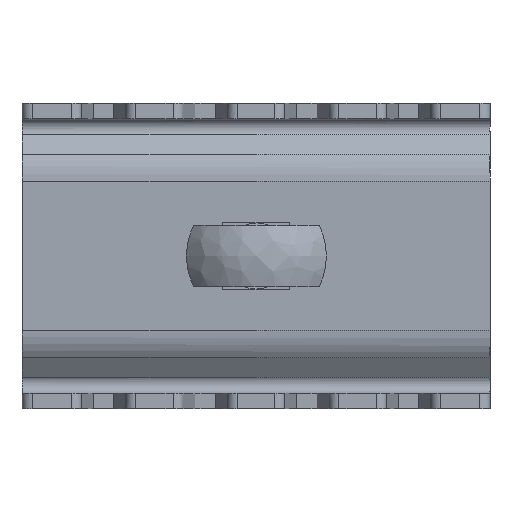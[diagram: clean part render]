
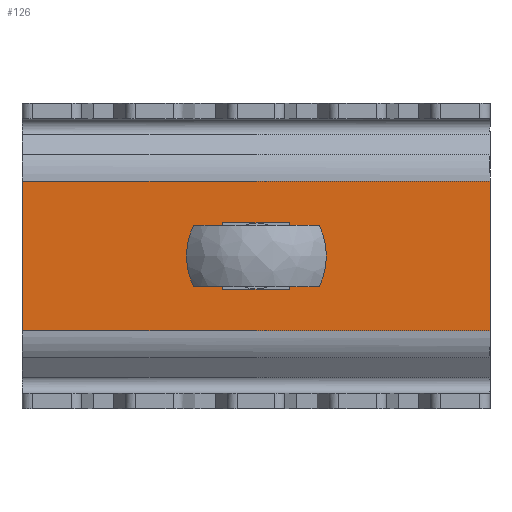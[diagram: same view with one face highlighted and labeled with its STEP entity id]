
A CAD part, left-side view. The second image highlights one B-rep face of the part: STEP entity #126.
In plain terms, the highlighted planar face has unit normal (-1, 0, 0).
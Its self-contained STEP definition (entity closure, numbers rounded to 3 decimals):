
#13=FACE_BOUND($,#376,.T.);
#126=ADVANCED_FACE($,(#250,#13),#1775,.T.);
#250=FACE_OUTER_BOUND($,#375,.T.);
#375=EDGE_LOOP($,(#725,#726,#727,#728));
#376=EDGE_LOOP($,(#729,#730,#731,#732));
#725=ORIENTED_EDGE($,*,*,#1284,.F.);
#726=ORIENTED_EDGE($,*,*,#1280,.T.);
#727=ORIENTED_EDGE($,*,*,#1285,.F.);
#728=ORIENTED_EDGE($,*,*,#1222,.T.);
#729=ORIENTED_EDGE($,*,*,#1286,.F.);
#730=ORIENTED_EDGE($,*,*,#1287,.F.);
#731=ORIENTED_EDGE($,*,*,#1288,.F.);
#732=ORIENTED_EDGE($,*,*,#1283,.F.);
#1222=EDGE_CURVE($,#1558,#1557,#1915,.T.);
#1280=EDGE_CURVE($,#1616,#1617,#1960,.T.);
#1283=EDGE_CURVE($,#1618,#1621,#1961,.T.);
#1284=EDGE_CURVE($,#1616,#1557,#1962,.T.);
#1285=EDGE_CURVE($,#1558,#1617,#1963,.T.);
#1286=EDGE_CURVE($,#1619,#1618,#1964,.T.);
#1287=EDGE_CURVE($,#1620,#1619,#1965,.T.);
#1288=EDGE_CURVE($,#1621,#1620,#1966,.T.);
#1557=VERTEX_POINT($,#3770);
#1558=VERTEX_POINT($,#3771);
#1616=VERTEX_POINT($,#3829);
#1617=VERTEX_POINT($,#3830);
#1618=VERTEX_POINT($,#3831);
#1619=VERTEX_POINT($,#3832);
#1620=VERTEX_POINT($,#3833);
#1621=VERTEX_POINT($,#3834);
#1775=PLANE($,#2270);
#1915=B_SPLINE_CURVE_WITH_KNOTS($,1,(#3016,#3017),.UNSPECIFIED.,.F.,.F.,
(2,2),(1.628,2.628),.UNSPECIFIED.);
#1960=B_SPLINE_CURVE_WITH_KNOTS($,1,(#3157,#3158),.UNSPECIFIED.,.F.,.F.,
(2,2),(0.,1.),.UNSPECIFIED.);
#1961=B_SPLINE_CURVE_WITH_KNOTS($,1,(#3165,#3166),.UNSPECIFIED.,.F.,.F.,
(2,2),(0.,1.),.UNSPECIFIED.);
#1962=B_SPLINE_CURVE_WITH_KNOTS($,1,(#3167,#3168),.UNSPECIFIED.,.F.,.F.,
(2,2),(3.,4.),.UNSPECIFIED.);
#1963=B_SPLINE_CURVE_WITH_KNOTS($,1,(#3169,#3170),.UNSPECIFIED.,.F.,.F.,
(2,2),(1.,2.),.UNSPECIFIED.);
#1964=B_SPLINE_CURVE_WITH_KNOTS($,1,(#3171,#3172),.UNSPECIFIED.,.F.,.F.,
(2,2),(3.,4.),.UNSPECIFIED.);
#1965=B_SPLINE_CURVE_WITH_KNOTS($,1,(#3173,#3174),.UNSPECIFIED.,.F.,.F.,
(2,2),(2.,3.),.UNSPECIFIED.);
#1966=B_SPLINE_CURVE_WITH_KNOTS($,1,(#3175,#3176),.UNSPECIFIED.,.F.,.F.,
(2,2),(1.,2.),.UNSPECIFIED.);
#2270=AXIS2_PLACEMENT_3D($,#3601,#2336,$);
#2336=DIRECTION($,(-1.,0.,0.));
#3016=CARTESIAN_POINT($,(6.3,23.039,-7.341));
#3017=CARTESIAN_POINT($,(6.3,-22.961,-7.341));
#3157=CARTESIAN_POINT($,(6.3,-22.961,7.341));
#3158=CARTESIAN_POINT($,(6.3,23.039,7.341));
#3165=CARTESIAN_POINT($,(6.3,-3.211,3.25));
#3166=CARTESIAN_POINT($,(6.3,3.289,3.25));
#3167=CARTESIAN_POINT($,(6.3,-22.961,7.341));
#3168=CARTESIAN_POINT($,(6.3,-22.961,-7.341));
#3169=CARTESIAN_POINT($,(6.3,23.039,-7.341));
#3170=CARTESIAN_POINT($,(6.3,23.039,7.341));
#3171=CARTESIAN_POINT($,(6.3,-3.211,-3.25));
#3172=CARTESIAN_POINT($,(6.3,-3.211,3.25));
#3173=CARTESIAN_POINT($,(6.3,3.289,-3.25));
#3174=CARTESIAN_POINT($,(6.3,-3.211,-3.25));
#3175=CARTESIAN_POINT($,(6.3,3.289,3.25));
#3176=CARTESIAN_POINT($,(6.3,3.289,-3.25));
#3601=CARTESIAN_POINT($,(6.3,23.039,-7.341));
#3770=CARTESIAN_POINT($,(6.3,-22.961,-7.341));
#3771=CARTESIAN_POINT($,(6.3,23.039,-7.341));
#3829=CARTESIAN_POINT($,(6.3,-22.961,7.341));
#3830=CARTESIAN_POINT($,(6.3,23.039,7.341));
#3831=CARTESIAN_POINT($,(6.3,-3.211,3.25));
#3832=CARTESIAN_POINT($,(6.3,-3.211,-3.25));
#3833=CARTESIAN_POINT($,(6.3,3.289,-3.25));
#3834=CARTESIAN_POINT($,(6.3,3.289,3.25));
